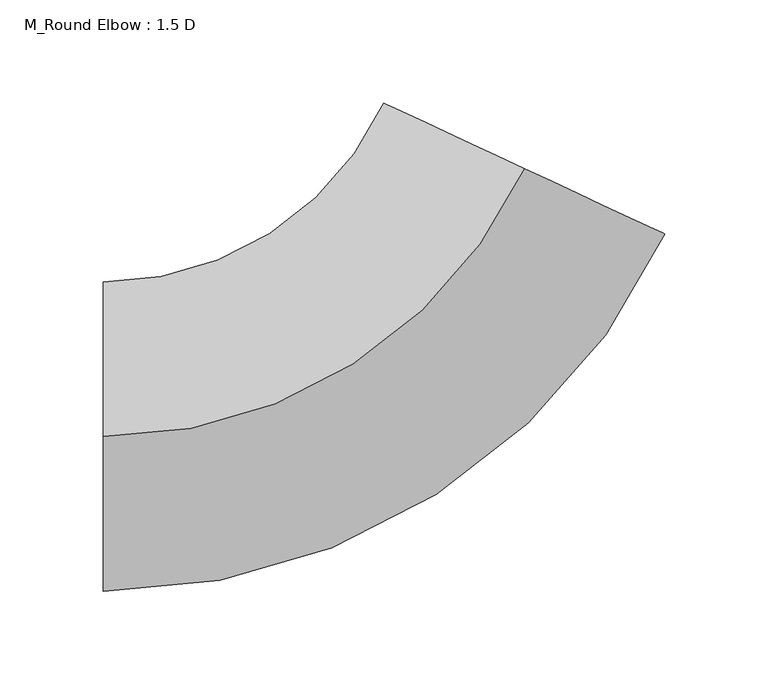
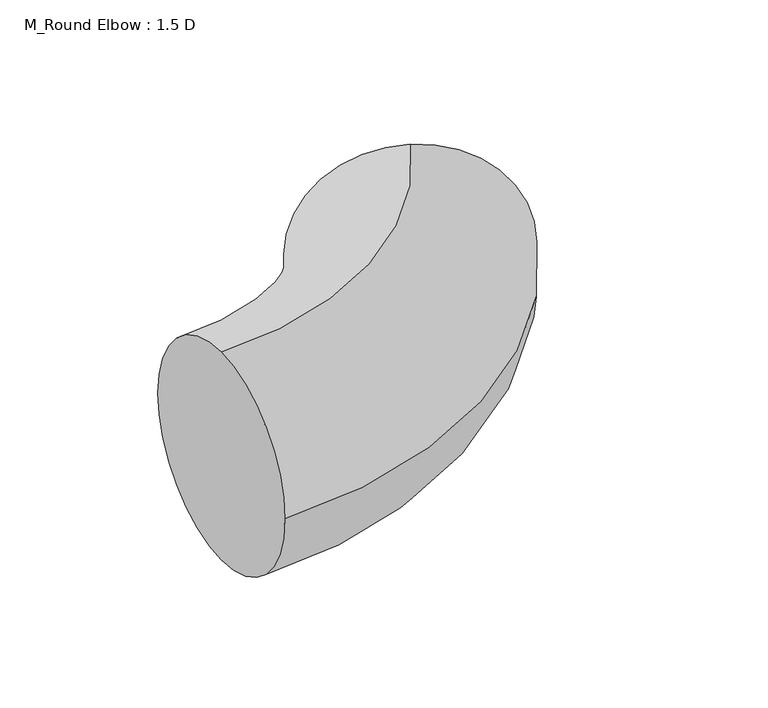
"""IFC4 building model written with IfcOpenShell, lengths in millimetres: duct fitting geometry, M_Round Elbow : 1.5 D."""

from ifc_helpers import new_model, si_unit, point, frame, origin, place, context, project, spatial, circle_curve, ellipse_curve, trimmed, source, transform, mapped, element, save
from ifc_brep_helpers import plane_surface, revolved_surface, advanced_brep


def m_round_elbow_1_5_d_7cec845b(model_context):
    return source(origin(), model_context, "Body", "AdvancedBrep", [
        advanced_brep(
        [(-143.3408087, 0.0, 75.0), (-143.3408087, 75.0, 0.0), (-143.3408087, 0.0, -75.0), (-143.3408087, -75.0, 0.0), (60.5784434, 129.9108911, 75.0), (128.5515274, 98.2145215, 0.0), (60.5784434, 129.9108911, -75.0), (-7.3946406, 161.6072608, 0.0)],
        [
            (0, 1, circle_curve(frame((-143.3408087, 0.0, 0.0), z_axis=(-1.0, 0.0, 0.0), x_axis=(0.0, 1.0, 0.0)), 75.0)),
            (1, 2, circle_curve(frame((-143.3408087, 0.0, 0.0), z_axis=(-1.0, 0.0, 0.0), x_axis=(0.0, 1.0, 0.0)), 75.0)),
            (2, 3, circle_curve(frame((-143.3408087, 0.0, 0.0), z_axis=(-1.0, 0.0, 0.0), x_axis=(0.0, 1.0, 0.0)), 75.0)),
            (3, 0, circle_curve(frame((-143.3408087, 0.0, 0.0), z_axis=(-1.0, 0.0, 0.0), x_axis=(0.0, 1.0, 0.0)), 75.0)),
            (4, 5, circle_curve(frame((60.5784434, 129.9108911, 0.0), z_axis=(0.4226182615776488, 0.9063077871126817, 0.0), x_axis=(-0.9063077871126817, 0.4226182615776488, 0.0)), 75.0)),
            (5, 6, circle_curve(frame((60.5784434, 129.9108911, 0.0), z_axis=(0.4226182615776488, 0.9063077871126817, 0.0), x_axis=(-0.9063077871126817, 0.4226182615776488, 0.0)), 75.0)),
            (6, 7, circle_curve(frame((60.5784434, 129.9108911, 0.0), z_axis=(0.4226182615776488, 0.9063077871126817, 0.0), x_axis=(-0.9063077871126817, 0.4226182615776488, 0.0)), 75.0)),
            (7, 4, circle_curve(frame((60.5784434, 129.9108911, 0.0), z_axis=(0.4226182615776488, 0.9063077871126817, 0.0), x_axis=(-0.9063077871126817, 0.4226182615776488, 0.0)), 75.0)),
            (7, 1, circle_curve(frame((-143.3408087, 225.0, 0.0), z_axis=(0.0, 0.0, -1.0), x_axis=(0.0, -1.0, 0.0)), 150.0)),
            (0, 4, circle_curve(frame((-143.3408087, 225.0, 75.0), z_axis=(0.0, 0.0, 1.0), x_axis=(0.0, -1.0, 0.0)), 225.0)),
            (6, 2, circle_curve(frame((-143.3408087, 225.0, -75.0), z_axis=(0.0, 0.0, -1.0), x_axis=(0.0, -1.0, 0.0)), 225.0)),
            (5, 3, circle_curve(frame((-143.3408087, 225.0, 0.0), z_axis=(0.0, 0.0, -1.0), x_axis=(0.0, -1.0, 0.0)), 300.0)),
        ],
        [
            plane_surface(frame((-143.3408087, 0.0, 0.0), z_axis=(-1.0, 0.0, 0.0), x_axis=(0.0, 0.0, 1.0))),
            plane_surface(frame((60.5784434, 129.9108911, 0.0), z_axis=(0.42261826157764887, 0.9063077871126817, 0.0), x_axis=(0.0, 0.0, 1.0))),
            revolved_surface(trimmed(ellipse_curve(frame((-143.3408087, 0.0, 0.0), z_axis=(-1.0, 0.0, 0.0), x_axis=(0.0, 1.0, 0.0)), 75.0, 75.0), [point((-143.3408087, 0.0, 75.0))], [point((-143.3408087, 75.0, 0.0))], True, "CARTESIAN"), (-143.3408087, 225.0, 0.0), (0.0, 0.0, 1.0)),
            revolved_surface(trimmed(ellipse_curve(frame((-143.3408087, 0.0, 0.0), z_axis=(-1.0, 0.0, 0.0), x_axis=(0.0, 1.0, 0.0)), 75.0, 75.0), [point((-143.3408087, 75.0, 0.0))], [point((-143.3408087, 0.0, -75.0))], True, "CARTESIAN"), (-143.3408087, 225.0, 0.0), (0.0, 0.0, 1.0)),
            revolved_surface(trimmed(ellipse_curve(frame((-143.3408087, 0.0, 0.0), z_axis=(-1.0, 0.0, 0.0), x_axis=(0.0, 1.0, 0.0)), 75.0, 75.0), [point((-143.3408087, 0.0, -75.0))], [point((-143.3408087, -75.0, 0.0))], True, "CARTESIAN"), (-143.3408087, 225.0, 0.0), (0.0, 0.0, 1.0)),
            revolved_surface(trimmed(ellipse_curve(frame((-143.3408087, 0.0, 0.0), z_axis=(-1.0, 0.0, 0.0), x_axis=(0.0, 1.0, 0.0)), 75.0, 75.0), [point((-143.3408087, -75.0, 0.0))], [point((-143.3408087, 0.0, 75.0))], True, "CARTESIAN"), (-143.3408087, 225.0, 0.0), (0.0, 0.0, 1.0)),
        ],
        [
            (0, [[1, 2, 3, 4]]),
            (1, [[5, 6, 7, 8]]),
            (2, [[9, -1, 10, -8]]),
            (3, [[11, -2, -9, -7]]),
            (4, [[12, -3, -11, -6]]),
            (5, [[-10, -4, -12, -5]]),
        ],
    ),
        advanced_brep(
        [(-143.3408087, 0.0, 75.0), (-143.3408087, 75.0, 0.0), (-143.3408087, 0.0, -75.0), (-143.3408087, -75.0, 0.0), (60.5784434, 129.9108911, 75.0), (128.5515274, 98.2145215, 0.0), (60.5784434, 129.9108911, -75.0), (-7.3946406, 161.6072608, 0.0)],
        [
            (0, 1, circle_curve(frame((-143.3408087, 0.0, 0.0), z_axis=(-1.0, 0.0, 0.0), x_axis=(0.0, 1.0, 0.0)), 75.0)),
            (1, 2, circle_curve(frame((-143.3408087, 0.0, 0.0), z_axis=(-1.0, 0.0, 0.0), x_axis=(0.0, 1.0, 0.0)), 75.0)),
            (2, 3, circle_curve(frame((-143.3408087, 0.0, 0.0), z_axis=(-1.0, 0.0, 0.0), x_axis=(0.0, 1.0, 0.0)), 75.0)),
            (3, 0, circle_curve(frame((-143.3408087, 0.0, 0.0), z_axis=(-1.0, 0.0, 0.0), x_axis=(0.0, 1.0, 0.0)), 75.0)),
            (4, 5, circle_curve(frame((60.5784434, 129.9108911, 0.0), z_axis=(0.4226182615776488, 0.9063077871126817, 0.0), x_axis=(-0.9063077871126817, 0.4226182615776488, 0.0)), 75.0)),
            (5, 6, circle_curve(frame((60.5784434, 129.9108911, 0.0), z_axis=(0.4226182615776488, 0.9063077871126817, 0.0), x_axis=(-0.9063077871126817, 0.4226182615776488, 0.0)), 75.0)),
            (6, 7, circle_curve(frame((60.5784434, 129.9108911, 0.0), z_axis=(0.4226182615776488, 0.9063077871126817, 0.0), x_axis=(-0.9063077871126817, 0.4226182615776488, 0.0)), 75.0)),
            (7, 4, circle_curve(frame((60.5784434, 129.9108911, 0.0), z_axis=(0.4226182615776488, 0.9063077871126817, 0.0), x_axis=(-0.9063077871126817, 0.4226182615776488, 0.0)), 75.0)),
            (7, 1, circle_curve(frame((-143.3408087, 225.0, 0.0), z_axis=(0.0, 0.0, -1.0), x_axis=(0.0, -1.0, 0.0)), 150.0)),
            (0, 4, circle_curve(frame((-143.3408087, 225.0, 75.0), z_axis=(0.0, 0.0, 1.0), x_axis=(0.0, -1.0, 0.0)), 225.0)),
            (6, 2, circle_curve(frame((-143.3408087, 225.0, -75.0), z_axis=(0.0, 0.0, -1.0), x_axis=(0.0, -1.0, 0.0)), 225.0)),
            (5, 3, circle_curve(frame((-143.3408087, 225.0, 0.0), z_axis=(0.0, 0.0, -1.0), x_axis=(0.0, -1.0, 0.0)), 300.0)),
        ],
        [
            plane_surface(frame((-143.3408087, 0.0, 0.0), z_axis=(-1.0, 0.0, 0.0), x_axis=(0.0, 0.0, 1.0))),
            plane_surface(frame((60.5784434, 129.9108911, 0.0), z_axis=(0.42261826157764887, 0.9063077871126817, 0.0), x_axis=(0.0, 0.0, 1.0))),
            revolved_surface(trimmed(ellipse_curve(frame((-143.3408087, 0.0, 0.0), z_axis=(-1.0, 0.0, 0.0), x_axis=(0.0, 1.0, 0.0)), 75.0, 75.0), [point((-143.3408087, 0.0, 75.0))], [point((-143.3408087, 75.0, 0.0))], True, "CARTESIAN"), (-143.3408087, 225.0, 0.0), (0.0, 0.0, 1.0)),
            revolved_surface(trimmed(ellipse_curve(frame((-143.3408087, 0.0, 0.0), z_axis=(-1.0, 0.0, 0.0), x_axis=(0.0, 1.0, 0.0)), 75.0, 75.0), [point((-143.3408087, 75.0, 0.0))], [point((-143.3408087, 0.0, -75.0))], True, "CARTESIAN"), (-143.3408087, 225.0, 0.0), (0.0, 0.0, 1.0)),
            revolved_surface(trimmed(ellipse_curve(frame((-143.3408087, 0.0, 0.0), z_axis=(-1.0, 0.0, 0.0), x_axis=(0.0, 1.0, 0.0)), 75.0, 75.0), [point((-143.3408087, 0.0, -75.0))], [point((-143.3408087, -75.0, 0.0))], True, "CARTESIAN"), (-143.3408087, 225.0, 0.0), (0.0, 0.0, 1.0)),
            revolved_surface(trimmed(ellipse_curve(frame((-143.3408087, 0.0, 0.0), z_axis=(-1.0, 0.0, 0.0), x_axis=(0.0, 1.0, 0.0)), 75.0, 75.0), [point((-143.3408087, -75.0, 0.0))], [point((-143.3408087, 0.0, 75.0))], True, "CARTESIAN"), (-143.3408087, 225.0, 0.0), (0.0, 0.0, 1.0)),
        ],
        [
            (0, [[1, 2, 3, 4]]),
            (1, [[5, 6, 7, 8]]),
            (2, [[9, -1, 10, -8]]),
            (3, [[11, -2, -9, -7]]),
            (4, [[12, -3, -11, -6]]),
            (5, [[-10, -4, -12, -5]]),
        ],
    ),
        advanced_brep(
        [(-143.3408087, 0.0, 75.0), (-143.3408087, 75.0, 0.0), (-143.3408087, 0.0, -75.0), (-143.3408087, -75.0, 0.0), (60.5784434, 129.9108911, 75.0), (128.5515274, 98.2145215, 0.0), (60.5784434, 129.9108911, -75.0), (-7.3946406, 161.6072608, 0.0)],
        [
            (0, 1, circle_curve(frame((-143.3408087, 0.0, 0.0), z_axis=(-1.0, 0.0, 0.0), x_axis=(0.0, 1.0, 0.0)), 75.0)),
            (1, 2, circle_curve(frame((-143.3408087, 0.0, 0.0), z_axis=(-1.0, 0.0, 0.0), x_axis=(0.0, 1.0, 0.0)), 75.0)),
            (2, 3, circle_curve(frame((-143.3408087, 0.0, 0.0), z_axis=(-1.0, 0.0, 0.0), x_axis=(0.0, 1.0, 0.0)), 75.0)),
            (3, 0, circle_curve(frame((-143.3408087, 0.0, 0.0), z_axis=(-1.0, 0.0, 0.0), x_axis=(0.0, 1.0, 0.0)), 75.0)),
            (4, 5, circle_curve(frame((60.5784434, 129.9108911, 0.0), z_axis=(0.4226182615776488, 0.9063077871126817, 0.0), x_axis=(-0.9063077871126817, 0.4226182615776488, 0.0)), 75.0)),
            (5, 6, circle_curve(frame((60.5784434, 129.9108911, 0.0), z_axis=(0.4226182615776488, 0.9063077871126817, 0.0), x_axis=(-0.9063077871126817, 0.4226182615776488, 0.0)), 75.0)),
            (6, 7, circle_curve(frame((60.5784434, 129.9108911, 0.0), z_axis=(0.4226182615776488, 0.9063077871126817, 0.0), x_axis=(-0.9063077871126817, 0.4226182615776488, 0.0)), 75.0)),
            (7, 4, circle_curve(frame((60.5784434, 129.9108911, 0.0), z_axis=(0.4226182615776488, 0.9063077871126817, 0.0), x_axis=(-0.9063077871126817, 0.4226182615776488, 0.0)), 75.0)),
            (7, 1, circle_curve(frame((-143.3408087, 225.0, 0.0), z_axis=(0.0, 0.0, -1.0), x_axis=(0.0, -1.0, 0.0)), 150.0)),
            (0, 4, circle_curve(frame((-143.3408087, 225.0, 75.0), z_axis=(0.0, 0.0, 1.0), x_axis=(0.0, -1.0, 0.0)), 225.0)),
            (6, 2, circle_curve(frame((-143.3408087, 225.0, -75.0), z_axis=(0.0, 0.0, -1.0), x_axis=(0.0, -1.0, 0.0)), 225.0)),
            (5, 3, circle_curve(frame((-143.3408087, 225.0, 0.0), z_axis=(0.0, 0.0, -1.0), x_axis=(0.0, -1.0, 0.0)), 300.0)),
        ],
        [
            plane_surface(frame((-143.3408087, 0.0, 0.0), z_axis=(-1.0, 0.0, 0.0), x_axis=(0.0, 0.0, 1.0))),
            plane_surface(frame((60.5784434, 129.9108911, 0.0), z_axis=(0.42261826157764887, 0.9063077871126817, 0.0), x_axis=(0.0, 0.0, 1.0))),
            revolved_surface(trimmed(ellipse_curve(frame((-143.3408087, 0.0, 0.0), z_axis=(-1.0, 0.0, 0.0), x_axis=(0.0, 1.0, 0.0)), 75.0, 75.0), [point((-143.3408087, 0.0, 75.0))], [point((-143.3408087, 75.0, 0.0))], True, "CARTESIAN"), (-143.3408087, 225.0, 0.0), (0.0, 0.0, 1.0)),
            revolved_surface(trimmed(ellipse_curve(frame((-143.3408087, 0.0, 0.0), z_axis=(-1.0, 0.0, 0.0), x_axis=(0.0, 1.0, 0.0)), 75.0, 75.0), [point((-143.3408087, 75.0, 0.0))], [point((-143.3408087, 0.0, -75.0))], True, "CARTESIAN"), (-143.3408087, 225.0, 0.0), (0.0, 0.0, 1.0)),
            revolved_surface(trimmed(ellipse_curve(frame((-143.3408087, 0.0, 0.0), z_axis=(-1.0, 0.0, 0.0), x_axis=(0.0, 1.0, 0.0)), 75.0, 75.0), [point((-143.3408087, 0.0, -75.0))], [point((-143.3408087, -75.0, 0.0))], True, "CARTESIAN"), (-143.3408087, 225.0, 0.0), (0.0, 0.0, 1.0)),
            revolved_surface(trimmed(ellipse_curve(frame((-143.3408087, 0.0, 0.0), z_axis=(-1.0, 0.0, 0.0), x_axis=(0.0, 1.0, 0.0)), 75.0, 75.0), [point((-143.3408087, -75.0, 0.0))], [point((-143.3408087, 0.0, 75.0))], True, "CARTESIAN"), (-143.3408087, 225.0, 0.0), (0.0, 0.0, 1.0)),
        ],
        [
            (0, [[1, 2, 3, 4]]),
            (1, [[5, 6, 7, 8]]),
            (2, [[9, -1, 10, -8]]),
            (3, [[11, -2, -9, -7]]),
            (4, [[12, -3, -11, -6]]),
            (5, [[-10, -4, -12, -5]]),
        ],
    ),
    ])


if __name__ == "__main__":
    model = new_model("IFC4")
    model_context = context("Model", 3, world=origin())
    ifc_project = project(units=[si_unit("LENGTHUNIT", "METRE", prefix="MILLI")], contexts=[model_context])
    site = spatial("IfcSite", under=ifc_project)
    building = spatial("IfcBuilding", under=site)
    placement = place(None, origin())
    m_round_elbow_1_5_d_shape = m_round_elbow_1_5_d_7cec845b(model_context)
    element("IfcDuctFitting", 1, ObjectType="M_Round Elbow : 1.5 D", at=placement, inside=building, context=model_context, shape_type="MappedRepresentation", body=[
        mapped(m_round_elbow_1_5_d_shape, transform((0.0, 0.0, 0.0), x_axis=(1.0, 0.0, 0.0), y_axis=(0.0, 1.0, 0.0), z_axis=(0.0, 0.0, 1.0))),
    ])
    save(model, "model.ifc")
